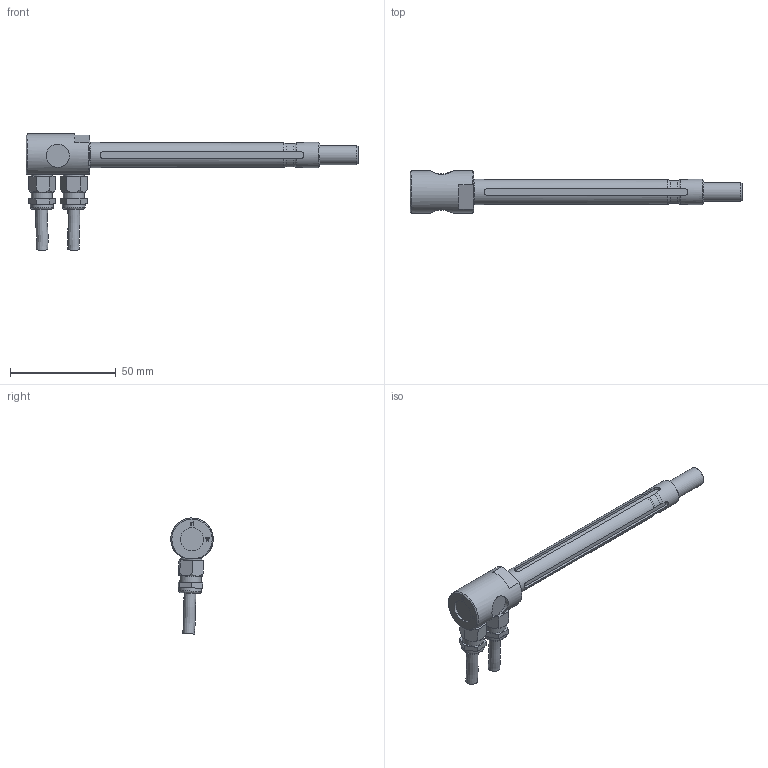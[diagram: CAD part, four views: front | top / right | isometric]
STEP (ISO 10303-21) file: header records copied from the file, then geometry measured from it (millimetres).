
FILE_DESCRIPTION(/* description */ ('Alibre Inc.'),/* implementation_level */ '2;1');
FILE_NAME(/* name */ 'export-08915861-C74C-4C60-BA9E-8249B048E346',/* time_stamp */ '2022-05-02T07:57:26+02:00',/* author */ (''),/* organization */ (''),/* preprocessor_version */ 'ST-DEVELOPER v17',/* originating_system */ 'Alibre',/* authorisation */ '');
FILE_SCHEMA (('CONFIG_CONTROL_DESIGN'));
Length unit declared in the file: millimetre
Bounding box: 156.7 x 20 x 54.79 mm (x, y, z)
Volume: 22482.5 mm3; surface area: 12491.3 mm2
Topology: 7 solids, 7 shells, 197 faces, 491 edges, 323 vertices
Faces by surface type: plane 107, cylinder 40, bspline 22, torus 15, cone 13
Full cylindrical faces by diameter (mm): 4 x1, 4.917 x1, 5.5 x2, 7.5 x2, 8 x2, 9 x1, 10 x2, 10.8 x2, 11 x3, 12 x2
Entity records: 5796 total; most frequent: CARTESIAN_POINT 1630, ORIENTED_EDGE 786, DIRECTION 551, EDGE_CURVE 393, VERTEX_POINT 275, VECTOR 224, LINE 224, FACE_BOUND 208
